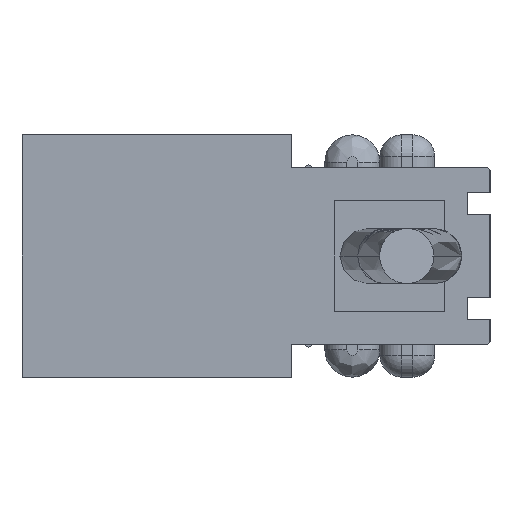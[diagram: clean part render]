
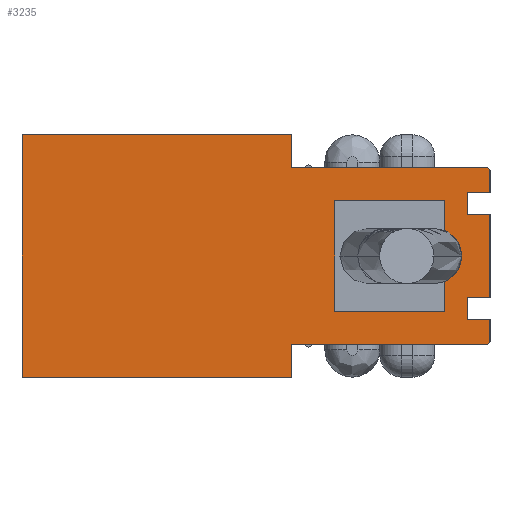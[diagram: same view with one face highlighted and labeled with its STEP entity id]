
A CAD part, left-side view. The second image highlights one B-rep face of the part: STEP entity #3235.
In plain terms, the highlighted planar face has unit normal (-1, 0, 0).
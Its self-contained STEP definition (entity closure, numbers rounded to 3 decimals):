
#317=DIRECTION('',(0.,-1.,0.));
#318=VECTOR('',#317,24.5);
#319=CARTESIAN_POINT('',(-134.,21.25,-11.));
#320=LINE('',#319,#318);
#1171=DIRECTION('',(0.,0.,1.));
#1172=VECTOR('',#1171,2.);
#1173=CARTESIAN_POINT('',(-134.,-19.25,-5.8));
#1174=LINE('',#1173,#1172);
#1175=DIRECTION('',(0.,1.,0.));
#1176=VECTOR('',#1175,2.);
#1177=CARTESIAN_POINT('',(-134.,-21.25,-5.8));
#1178=LINE('',#1177,#1176);
#1179=CARTESIAN_POINT('',(-134.,-21.05,-7.8));
#1180=DIRECTION('',(-1.,0.,0.));
#1181=DIRECTION('',(0.,0.,-1.));
#1182=AXIS2_PLACEMENT_3D('',#1179,#1180,#1181);
#1184=DIRECTION('',(0.,1.,0.));
#1185=VECTOR('',#1184,17.8);
#1186=CARTESIAN_POINT('',(-134.,-21.05,-8.));
#1187=LINE('',#1186,#1185);
#1188=DIRECTION('',(0.,0.,1.));
#1189=VECTOR('',#1188,3.);
#1190=CARTESIAN_POINT('',(-134.,-3.25,-11.));
#1191=LINE('',#1190,#1189);
#1192=DIRECTION('',(0.,0.,1.));
#1193=VECTOR('',#1192,22.);
#1194=CARTESIAN_POINT('',(-134.,21.25,-11.));
#1195=LINE('',#1194,#1193);
#1196=DIRECTION('',(0.,0.,1.));
#1197=VECTOR('',#1196,3.);
#1198=CARTESIAN_POINT('',(-134.,-3.25,8.));
#1199=LINE('',#1198,#1197);
#1200=DIRECTION('',(0.,1.,0.));
#1201=VECTOR('',#1200,17.8);
#1202=CARTESIAN_POINT('',(-134.,-21.05,8.));
#1203=LINE('',#1202,#1201);
#1204=CARTESIAN_POINT('',(-134.,-21.05,7.8));
#1205=DIRECTION('',(-1.,0.,0.));
#1206=DIRECTION('',(0.,-1.,0.));
#1207=AXIS2_PLACEMENT_3D('',#1204,#1205,#1206);
#1209=DIRECTION('',(0.,-1.,0.));
#1210=VECTOR('',#1209,2.);
#1211=CARTESIAN_POINT('',(-134.,-19.25,5.8));
#1212=LINE('',#1211,#1210);
#1213=DIRECTION('',(0.,0.,1.));
#1214=VECTOR('',#1213,2.);
#1215=CARTESIAN_POINT('',(-134.,-19.25,3.8));
#1216=LINE('',#1215,#1214);
#1217=DIRECTION('',(0.,1.,0.));
#1218=VECTOR('',#1217,2.);
#1219=CARTESIAN_POINT('',(-134.,-21.25,3.8));
#1220=LINE('',#1219,#1218);
#1221=DIRECTION('',(0.,1.,0.));
#1222=VECTOR('',#1221,2.);
#1223=CARTESIAN_POINT('',(-134.,-21.25,-3.8));
#1224=LINE('',#1223,#1222);
#1225=DIRECTION('',(0.,1.,0.));
#1226=VECTOR('',#1225,10.);
#1227=CARTESIAN_POINT('',(-134.,-17.15,5.));
#1228=LINE('',#1227,#1226);
#1229=DIRECTION('',(0.,0.,-1.));
#1230=VECTOR('',#1229,10.);
#1231=CARTESIAN_POINT('',(-134.,-7.15,5.));
#1232=LINE('',#1231,#1230);
#1233=DIRECTION('',(0.,-1.,0.));
#1234=VECTOR('',#1233,10.);
#1235=CARTESIAN_POINT('',(-134.,-7.15,-5.));
#1236=LINE('',#1235,#1234);
#1237=DIRECTION('',(0.,0.,1.));
#1238=VECTOR('',#1237,10.);
#1239=CARTESIAN_POINT('',(-134.,-17.15,-5.));
#1240=LINE('',#1239,#1238);
#1245=DIRECTION('',(0.,0.,1.));
#1246=VECTOR('',#1245,2.);
#1247=CARTESIAN_POINT('',(-134.,-21.25,5.8));
#1248=LINE('',#1247,#1246);
#1257=DIRECTION('',(0.,0.,1.));
#1258=VECTOR('',#1257,2.);
#1259=CARTESIAN_POINT('',(-134.,-21.25,-7.8));
#1260=LINE('',#1259,#1258);
#1285=DIRECTION('',(0.,0.,1.));
#1286=VECTOR('',#1285,7.6);
#1287=CARTESIAN_POINT('',(-134.,-21.25,-3.8));
#1288=LINE('',#1287,#1286);
#1317=DIRECTION('',(0.,-1.,0.));
#1318=VECTOR('',#1317,24.5);
#1319=CARTESIAN_POINT('',(-134.,21.25,11.));
#1320=LINE('',#1319,#1318);
#1524=CARTESIAN_POINT('',(-134.,21.25,-11.));
#1525=CARTESIAN_POINT('',(-134.,21.25,11.));
#1526=VERTEX_POINT('',#1524);
#1527=VERTEX_POINT('',#1525);
#1544=CARTESIAN_POINT('',(-134.,-3.25,-11.));
#1546=VERTEX_POINT('',#1544);
#1548=CARTESIAN_POINT('',(-134.,-3.25,11.));
#1550=VERTEX_POINT('',#1548);
#1552=CARTESIAN_POINT('',(-134.,-3.25,-8.));
#1553=VERTEX_POINT('',#1552);
#1554=CARTESIAN_POINT('',(-134.,-3.25,8.));
#1555=VERTEX_POINT('',#1554);
#1564=CARTESIAN_POINT('',(-134.,-21.05,-8.));
#1565=VERTEX_POINT('',#1564);
#1566=CARTESIAN_POINT('',(-134.,-21.25,-7.8));
#1567=VERTEX_POINT('',#1566);
#1568=CARTESIAN_POINT('',(-134.,-21.25,7.8));
#1569=CARTESIAN_POINT('',(-134.,-21.05,8.));
#1570=VERTEX_POINT('',#1568);
#1571=VERTEX_POINT('',#1569);
#1576=CARTESIAN_POINT('',(-134.,-19.25,-5.8));
#1577=CARTESIAN_POINT('',(-134.,-19.25,-3.8));
#1578=VERTEX_POINT('',#1576);
#1579=VERTEX_POINT('',#1577);
#1580=CARTESIAN_POINT('',(-134.,-19.25,3.8));
#1581=CARTESIAN_POINT('',(-134.,-19.25,5.8));
#1582=VERTEX_POINT('',#1580);
#1583=VERTEX_POINT('',#1581);
#1584=CARTESIAN_POINT('',(-134.,-21.25,5.8));
#1585=VERTEX_POINT('',#1584);
#1596=CARTESIAN_POINT('',(-134.,-21.25,-5.8));
#1597=VERTEX_POINT('',#1596);
#1600=CARTESIAN_POINT('',(-134.,-21.25,3.8));
#1601=VERTEX_POINT('',#1600);
#1602=CARTESIAN_POINT('',(-134.,-21.25,-3.8));
#1603=VERTEX_POINT('',#1602);
#1848=CARTESIAN_POINT('',(-134.,-17.15,5.));
#1849=CARTESIAN_POINT('',(-134.,-7.15,5.));
#1850=VERTEX_POINT('',#1848);
#1851=VERTEX_POINT('',#1849);
#1852=CARTESIAN_POINT('',(-134.,-7.15,-5.));
#1853=VERTEX_POINT('',#1852);
#1854=CARTESIAN_POINT('',(-134.,-17.15,-5.));
#1855=VERTEX_POINT('',#1854);
#3189=CARTESIAN_POINT('',(-134.,21.25,-11.));
#3190=DIRECTION('',(-1.,0.,0.));
#3191=DIRECTION('',(0.,-1.,0.));
#3192=AXIS2_PLACEMENT_3D('',#3189,#3190,#3191);
#3193=PLANE('',#3192);
#3194=ORIENTED_EDGE('',*,*,#3164,.F.);
#3196=ORIENTED_EDGE('',*,*,#3195,.F.);
#3198=ORIENTED_EDGE('',*,*,#3197,.F.);
#3200=ORIENTED_EDGE('',*,*,#3199,.F.);
#3201=ORIENTED_EDGE('',*,*,#1935,.T.);
#3202=ORIENTED_EDGE('',*,*,#1906,.F.);
#3203=ORIENTED_EDGE('',*,*,#1875,.F.);
#3205=ORIENTED_EDGE('',*,*,#3204,.T.);
#3207=ORIENTED_EDGE('',*,*,#3206,.T.);
#3208=ORIENTED_EDGE('',*,*,#1891,.F.);
#3209=ORIENTED_EDGE('',*,*,#2504,.F.);
#3211=ORIENTED_EDGE('',*,*,#3210,.F.);
#3213=ORIENTED_EDGE('',*,*,#3212,.F.);
#3215=ORIENTED_EDGE('',*,*,#3214,.F.);
#3216=ORIENTED_EDGE('',*,*,#3179,.F.);
#3218=ORIENTED_EDGE('',*,*,#3217,.F.);
#3220=ORIENTED_EDGE('',*,*,#3219,.F.);
#3222=ORIENTED_EDGE('',*,*,#3221,.T.);
#3223=EDGE_LOOP('',(#3194,#3196,#3198,#3200,#3201,#3202,#3203,#3205,#3207,#3208,
#3209,#3211,#3213,#3215,#3216,#3218,#3220,#3222));
#3224=FACE_OUTER_BOUND('',#3223,.F.);
#3226=ORIENTED_EDGE('',*,*,#3225,.T.);
#3228=ORIENTED_EDGE('',*,*,#3227,.T.);
#3230=ORIENTED_EDGE('',*,*,#3229,.T.);
#3232=ORIENTED_EDGE('',*,*,#3231,.T.);
#3233=EDGE_LOOP('',(#3226,#3228,#3230,#3232));
#3234=FACE_BOUND('',#3233,.F.);
#1183=CIRCLE('',#1182,0.2);
#1208=CIRCLE('',#1207,0.2);
#1875=EDGE_CURVE('',#1526,#1546,#320,.T.);
#1891=EDGE_CURVE('',#1555,#1550,#1199,.T.);
#1906=EDGE_CURVE('',#1546,#1553,#1191,.T.);
#1935=EDGE_CURVE('',#1565,#1553,#1187,.T.);
#2504=EDGE_CURVE('',#1571,#1555,#1203,.T.);
#3164=EDGE_CURVE('',#1578,#1579,#1174,.T.);
#3179=EDGE_CURVE('',#1582,#1583,#1216,.T.);
#3195=EDGE_CURVE('',#1597,#1578,#1178,.T.);
#3197=EDGE_CURVE('',#1567,#1597,#1260,.T.);
#3199=EDGE_CURVE('',#1565,#1567,#1183,.T.);
#3204=EDGE_CURVE('',#1526,#1527,#1195,.T.);
#3206=EDGE_CURVE('',#1527,#1550,#1320,.T.);
#3210=EDGE_CURVE('',#1570,#1571,#1208,.T.);
#3212=EDGE_CURVE('',#1585,#1570,#1248,.T.);
#3214=EDGE_CURVE('',#1583,#1585,#1212,.T.);
#3217=EDGE_CURVE('',#1601,#1582,#1220,.T.);
#3219=EDGE_CURVE('',#1603,#1601,#1288,.T.);
#3221=EDGE_CURVE('',#1603,#1579,#1224,.T.);
#3225=EDGE_CURVE('',#1850,#1851,#1228,.T.);
#3227=EDGE_CURVE('',#1851,#1853,#1232,.T.);
#3229=EDGE_CURVE('',#1853,#1855,#1236,.T.);
#3231=EDGE_CURVE('',#1855,#1850,#1240,.T.);
#3235=ADVANCED_FACE('',(#3224,#3234),#3193,.T.);
